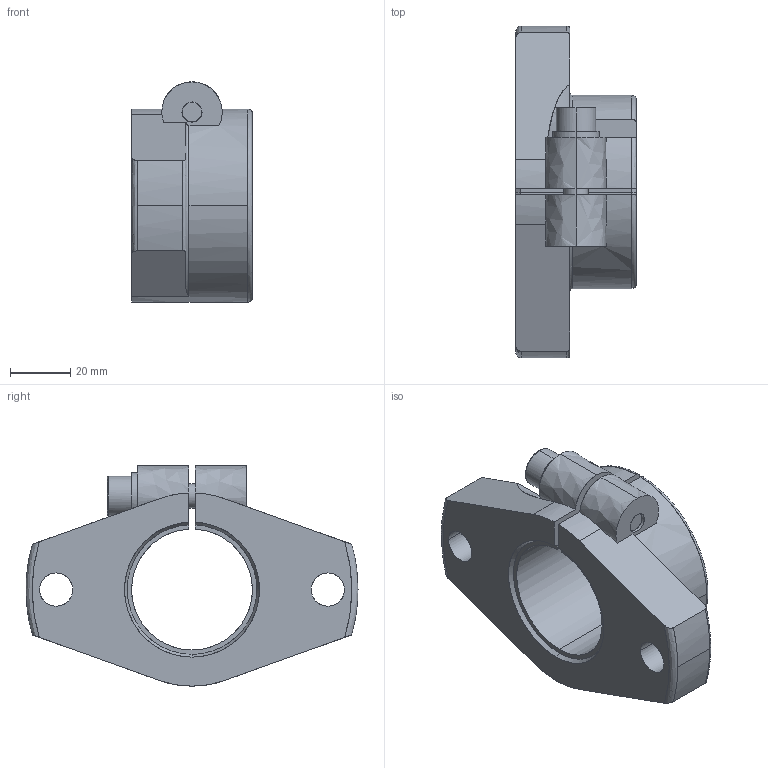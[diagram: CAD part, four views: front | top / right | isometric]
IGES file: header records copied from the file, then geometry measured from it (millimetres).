
Global section: file name: No Iges File Name specified; native system: AutoDesk Inventor R10; preprocessor: AutoDesk Inventor Iges Exporter R10; author: No Author specified; organization: No Organization specified; date: 20101214.153755; units: millimetre
Bounding box: 40 x 110 x 73 mm (x, y, z)
Surface area: 26351.4 mm2 (no closed solid volume)
Topology: 0 solids, 0 shells, 75 faces, 684 edges, 682 vertices
Faces by surface type: bspline 75
